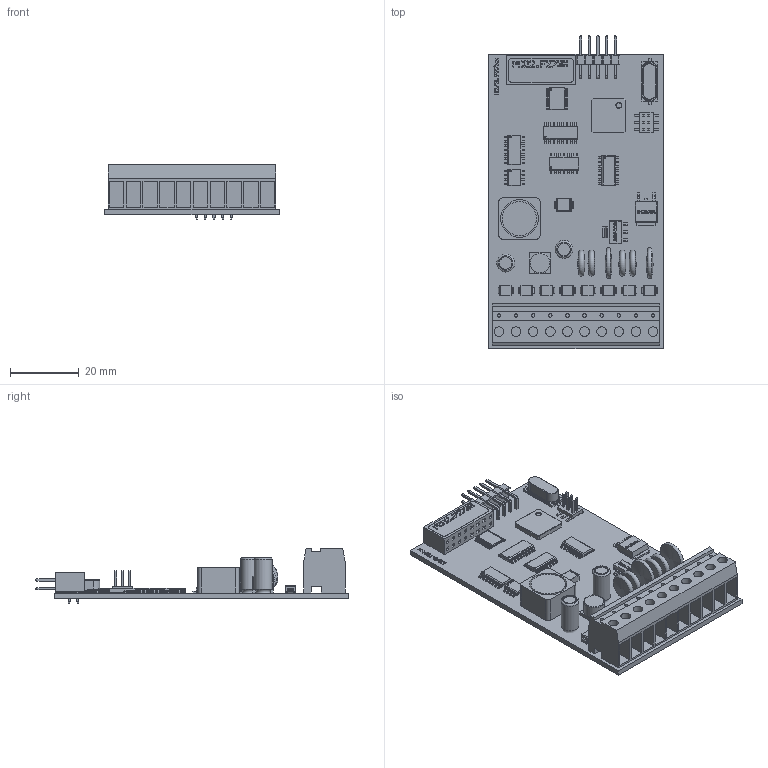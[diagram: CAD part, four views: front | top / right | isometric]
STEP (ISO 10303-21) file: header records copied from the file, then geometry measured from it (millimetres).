
FILE_DESCRIPTION(('CAx-IF Rec.Pracs.---Model Styling and Organization---1.5---2016-08-15','CAx-IF Rec.Pracs.---Geometric and Assembly Validation Properties---4.4---2016-08-17','CAx-IF Rec.Pracs.---User Defined Attributes---1.5---2016-08-15','CAx-IF Rec.Pracs.---External References---2.1---2005-01-19'),'2;1');
FILE_NAME('SBC_STP_PLC_PCD2F2730_2021-08-08.stp','2021-08-08T20:08:49',('Unspecified'),('Unspecified'),'CAD Exchanger 3.9.1 (cadexchanger.com)','Unspecified','');
FILE_SCHEMA(('AUTOMOTIVE_DESIGN { 1 0 10303 214 1 1 1 1 }'));
Length unit declared in the file: millimetre
Products named in the file (37): PCD-I/O-Bus; Big_Coil; AlElko_-_22uF_-_2; SO8N_-_LM358; SO14N_-_LM339-1; Coil; LED1; LED004; SO16N_-_74HC4538; Stiftleist_6p_-_1; LED005; LED0; LED007; LED006; SO14N_-_LM339-2; Suppressor; LED2; LED3; HC49; TSSOP20; SO14N_-_74HC74; AlElko_-_22uF_-_1; Text_on_top_-_PCD7.F2730; Text_on_top_-_D2/3.F27xx; Leiterplatte; Label; Plug_L_-_10_polig; LQFP-64; Varistor_blue_1; Varistor_blue_2; Varistor_blue_3; Varistor_blue_4; Varistor_yellow_1; Varistor_yellow_2; to252_3_TR1; ZL212-10_P2-54_L12-7_W12-4_H5-1; SOT223_P2-3_L6-7_W3-7
Bounding box: 51 x 91.5 x 16.01 mm (x, y, z)
Volume: 16046.4 mm3; surface area: 21301.2 mm2
Topology: 153 solids, 153 shells, 3435 faces, 8961 edges, 5892 vertices
Faces by surface type: plane 2221, cylinder 556, extrusion 334, bspline 274, sphere 24, torus 15, revolution 8, cone 3
Full cylindrical faces by diameter (mm): 0.4 x6, 1 x10, 1.5 x1, 2.8 x10, 3.6 x4, 5.2 x4, 6 x1, 10 x1, 11 x1
Entity records: 121057 total; most frequent: CARTESIAN_POINT 21105, ORIENTED_EDGE 17874, DIRECTION 15418, EDGE_CURVE 8937, VECTOR 7440, LINE 7106, VERTEX_POINT 5892, AXIS2_PLACEMENT_3D 3985
